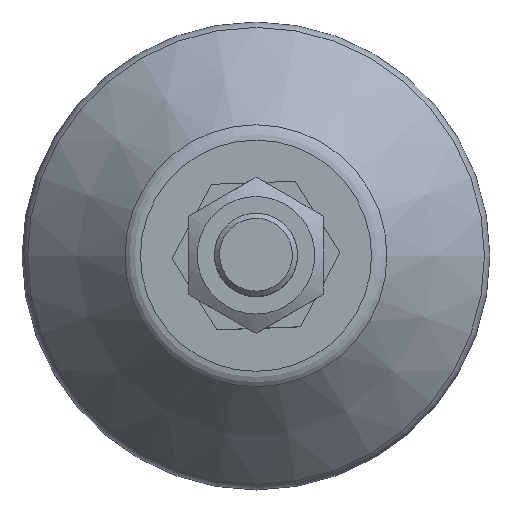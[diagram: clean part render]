
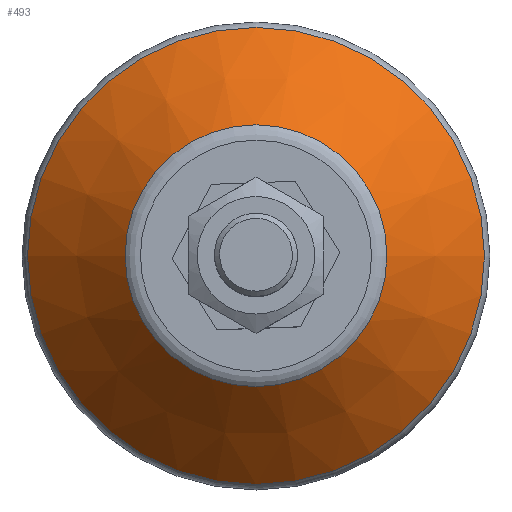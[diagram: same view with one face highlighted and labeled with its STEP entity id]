
A CAD part, top view. The second image highlights one B-rep face of the part: STEP entity #493.
In plain terms, the highlighted conical face has half-angle 42.397 degrees and reference radius 17.286 mm.
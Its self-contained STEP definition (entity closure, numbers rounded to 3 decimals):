
#459=CARTESIAN_POINT('',(12.595,17.349,0.0));
#460=VERTEX_POINT('',#459);
#461=CARTESIAN_POINT('',(0.,17.349,0.0));
#462=DIRECTION('',(0.0,-1.0,0.0));
#463=DIRECTION('',(1.0,0.0,0.0));
#464=AXIS2_PLACEMENT_3D('',#461,#462,#463);
#465=CIRCLE('',#464,12.595);
#466=EDGE_CURVE('',#460,#460,#465,.T.);
#474=CARTESIAN_POINT('',(0.,12.211,0.0));
#475=DIRECTION('',(0.,-1.0,0.0));
#476=DIRECTION('',(1.0,0.0,0.0));
#477=AXIS2_PLACEMENT_3D('',#474,#475,#476);
#478=CONICAL_SURFACE('',#477,17.286,42.397);
#479=CARTESIAN_POINT('',(21.977,7.073,0.0));
#480=VERTEX_POINT('',#479);
#481=CARTESIAN_POINT('',(0.,7.073,0.0));
#482=DIRECTION('',(0.0,-1.0,0.0));
#483=DIRECTION('',(1.0,0.0,0.0));
#484=AXIS2_PLACEMENT_3D('',#481,#482,#483);
#485=CIRCLE('',#484,21.977);
#486=EDGE_CURVE('',#480,#480,#485,.T.);
#487=ORIENTED_EDGE('',*,*,#486,.F.);
#488=EDGE_LOOP('',(#487));
#489=FACE_OUTER_BOUND('',#488,.T.);
#490=ORIENTED_EDGE('',*,*,#466,.T.);
#491=EDGE_LOOP('',(#490));
#492=FACE_BOUND('',#491,.T.);
#493=ADVANCED_FACE('',(#489,#492),#478,.T.);
